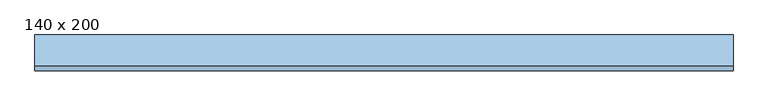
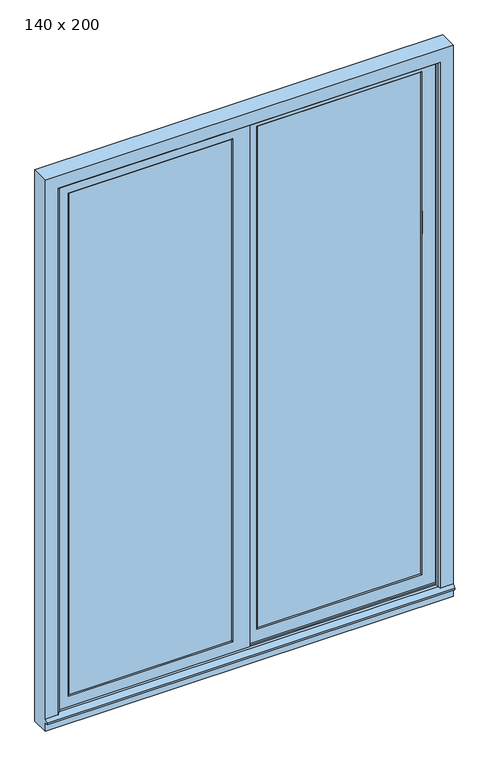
"""IFC4 building model written with IfcOpenShell, lengths in millimetres: window geometry, T-2 Vantaux coulissant : 140 x 200."""

from ifc_helpers import new_model, si_unit, point, frame, frame_2d, origin, place, context, project, spatial, polyline, circle_curve, ellipse_curve, trimmed, segment, composite_curve, outline, extrude, faceted_brep, source, transform, mapped, element, save
from ifc_brep_helpers import plane_surface, cylinder_surface, advanced_brep


def window_140_x_200_b4d7d047(model_context):
    return source(origin(), model_context, "Body", "SolidModel", [
        extrude(outline(composite_curve([segment(polyline([(-619.0038966, 79.0), (-630.9961034, 79.0), (-630.9961034, 80.0233746)]), True, "CONTINUOUS"), segment(trimmed(circle_curve(frame_2d((-630.4961034, 80.0233746)), 0.5), [point((-630.9961034, 80.0233746))], [point((-630.4961034, 80.5233746))], False, "CARTESIAN"), True, "CONTINUOUS"), segment(polyline([(-630.4961034, 80.5233746), (-619.5038966, 80.5233746)]), True, "CONTINUOUS"), segment(trimmed(circle_curve(frame_2d((-619.5038966, 80.0233746)), 0.5), [point((-619.5038966, 80.5233746))], [point((-619.0038966, 80.0233746))], False, "CARTESIAN"), True, "CONTINUOUS"), segment(polyline([(-619.0038966, 80.0233746), (-619.0038966, 79.0)]), True, "CONTINUOUS")], self_intersect=False)), frame((0.0, 0.0, 1311.5038966), z_axis=(0.0, 0.0, 1.0), x_axis=(1.0, 0.0, 0.0)), (0.0, 0.0, 1.0), 76.9922069),
        advanced_brep(
        [(-632.5, 74.0, 1390.0), (-617.5, 74.0, 1390.0), (-617.5, 84.0, 1390.0), (-632.5, 84.0, 1390.0), (-630.9961034, 84.4857579, 1388.4961034), (-619.0038966, 84.4857579, 1388.4961034), (-619.0038966, 74.0, 1388.4961034), (-630.9961034, 74.0, 1388.4961034), (-631.9961034, 85.4857579, 1389.4961034), (-618.0038966, 85.4857579, 1389.4961034), (-634.9999662, 84.0, 1392.4999662), (-615.0000338, 84.0, 1392.4999662), (-616.4999662, 85.4857579, 1391.0000338), (-633.5000338, 85.4857579, 1391.0000338), (-617.5, 74.0, 1310.0), (-617.5, 84.0, 1310.0), (-619.0038966, 84.4857579, 1311.5038966), (-619.0038966, 74.0, 1311.5038966), (-618.0038966, 85.4857579, 1310.5038966), (-615.0000338, 84.0, 1307.5000338), (-616.4999662, 85.4857579, 1308.9999662), (-632.5, 74.0, 1310.0), (-632.5, 84.0, 1310.0), (-630.9961034, 84.4857579, 1311.5038966), (-630.9961034, 74.0, 1311.5038966), (-631.9961034, 85.4857579, 1310.5038966), (-634.9999662, 84.0, 1307.5000338), (-633.5000338, 85.4857579, 1308.9999662)],
        [
            (0, 1),
            (1, 2),
            (2, 3),
            (3, 0),
            (4, 5),
            (5, 6),
            (6, 7),
            (7, 4),
            (8, 9),
            (9, 5, ellipse_curve(frame((-618.0038966, 84.4857579, 1389.4961034), z_axis=(-0.7071067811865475, 0.0, 0.7071067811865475), x_axis=(-0.7071067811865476, 0.0, -0.7071067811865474)), 1.4142136, 1.0)),
            (4, 8, ellipse_curve(frame((-631.9961034, 84.4857579, 1389.4961034), z_axis=(0.7071067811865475, 0.0, 0.7071067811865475), x_axis=(-0.7071067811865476, 0.0, 0.7071067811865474)), 1.4142136, 1.0)),
            (10, 11),
            (11, 12, ellipse_curve(frame((-616.4999662, 83.9857579, 1391.0000338), z_axis=(-0.7071067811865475, 0.0, 0.7071067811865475), x_axis=(-0.7071067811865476, 0.0, -0.7071067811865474)), 2.1213203, 1.5)),
            (12, 13),
            (13, 10, ellipse_curve(frame((-633.5000338, 83.9857579, 1391.0000338), z_axis=(0.7071067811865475, 0.0, 0.7071067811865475), x_axis=(-0.7071067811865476, 0.0, 0.7071067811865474)), 2.1213203, 1.5)),
            (1, 14),
            (14, 15),
            (15, 2),
            (5, 16),
            (16, 17),
            (17, 6),
            (9, 18),
            (18, 16, ellipse_curve(frame((-618.0038966, 84.4857579, 1310.5038966), z_axis=(0.7071067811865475, 0.0, 0.7071067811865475), x_axis=(-0.7071067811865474, 0.0, 0.7071067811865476)), 1.4142136, 1.0)),
            (11, 19),
            (19, 20, ellipse_curve(frame((-616.4999662, 83.9857579, 1308.9999662), z_axis=(0.7071067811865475, 0.0, 0.7071067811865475), x_axis=(-0.7071067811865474, 0.0, 0.7071067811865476)), 2.1213203, 1.5)),
            (20, 12),
            (14, 21),
            (21, 22),
            (22, 15),
            (16, 23),
            (23, 24),
            (24, 17),
            (18, 25),
            (25, 23, ellipse_curve(frame((-631.9961034, 84.4857579, 1310.5038966), z_axis=(0.7071067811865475, 0.0, -0.7071067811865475), x_axis=(0.7071067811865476, 0.0, 0.7071067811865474)), 1.4142136, 1.0)),
            (19, 26),
            (26, 27, ellipse_curve(frame((-633.5000338, 83.9857579, 1308.9999662), z_axis=(0.7071067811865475, 0.0, -0.7071067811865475), x_axis=(0.7071067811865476, 0.0, 0.7071067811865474)), 2.1213203, 1.5)),
            (27, 20),
            (10, 26),
            (22, 3),
            (21, 0),
            (24, 7),
            (23, 4),
            (25, 8),
            (27, 13),
        ],
        [
            plane_surface(frame((-632.5, 84.0, 1390.0), z_axis=(0.0, 0.0, 1.0), x_axis=(1.0, 0.0, 0.0))),
            plane_surface(frame((-630.9961034, 74.0, 1388.4961034), z_axis=(0.0, 0.0, -1.0), x_axis=(1.0, 0.0, 0.0))),
            cylinder_surface(frame((-632.5, 84.4857579, 1389.4961034), z_axis=(-1.0, 0.0, 0.0), x_axis=(0.0, 0.0, -1.0)), 1.0),
            cylinder_surface(frame((-632.5, 83.9857579, 1391.0000338), z_axis=(-1.0, 0.0, 0.0), x_axis=(0.0, 0.0, -1.0)), 1.5),
            plane_surface(frame((-617.5, 84.0, 1390.0), z_axis=(1.0, 0.0, 0.0), x_axis=(0.0, 0.0, -1.0))),
            plane_surface(frame((-619.0038966, 74.0, 1388.4961034), z_axis=(-1.0, 0.0, 0.0), x_axis=(0.0, 0.0, -1.0))),
            cylinder_surface(frame((-618.0038966, 84.4857579, 1390.0), z_axis=(0.0, 0.0, 1.0), x_axis=(-1.0, 0.0, 0.0)), 1.0),
            cylinder_surface(frame((-616.4999662, 83.9857579, 1390.0), z_axis=(0.0, 0.0, 1.0), x_axis=(-1.0, 0.0, 0.0)), 1.5),
            plane_surface(frame((-617.5, 84.0, 1310.0), z_axis=(0.0, 0.0, -1.0), x_axis=(-1.0, 0.0, 0.0))),
            plane_surface(frame((-619.0038966, 74.0, 1311.5038966), z_axis=(0.0, 0.0, 1.0), x_axis=(-1.0, 0.0, 0.0))),
            cylinder_surface(frame((-617.5, 84.4857579, 1310.5038966), z_axis=(1.0, 0.0, 0.0), x_axis=(0.0, 0.0, 1.0)), 1.0),
            cylinder_surface(frame((-617.5, 83.9857579, 1308.9999662), z_axis=(1.0, 0.0, 0.0), x_axis=(0.0, 0.0, 1.0)), 1.5),
            plane_surface(frame((-634.9999662, 84.0, 1307.5000338), z_axis=(0.0, -1.0, 0.0), x_axis=(0.0, 0.0, 1.0))),
            plane_surface(frame((-632.5, 84.0, 1310.0), z_axis=(-1.0, 0.0, 0.0), x_axis=(0.0, 0.0, 1.0))),
            plane_surface(frame((-632.5, 74.0, 1310.0), z_axis=(0.0, -1.0, 0.0), x_axis=(0.0, 0.0, 1.0))),
            plane_surface(frame((-630.9961034, 74.0, 1311.5038966), z_axis=(1.0, 0.0, 0.0), x_axis=(0.0, 0.0, 1.0))),
            cylinder_surface(frame((-631.9961034, 84.4857579, 1310.0), z_axis=(0.0, 0.0, -1.0), x_axis=(1.0, 0.0, 0.0)), 1.0),
            plane_surface(frame((-631.9961034, 85.4857579, 1310.5038966), z_axis=(0.0, 1.0, 0.0), x_axis=(0.0, 0.0, 1.0))),
            cylinder_surface(frame((-633.5000338, 83.9857579, 1310.0), z_axis=(0.0, 0.0, -1.0), x_axis=(1.0, 0.0, 0.0)), 1.5),
        ],
        [
            (0, [[1, 2, 3, 4]]),
            (1, [[5, 6, 7, 8]]),
            (2, [[9, 10, -5, 11]]),
            (3, [[12, 13, 14, 15]]),
            (4, [[16, 17, 18, -2]]),
            (5, [[19, 20, 21, -6]]),
            (6, [[22, 23, -19, -10]]),
            (7, [[24, 25, 26, -13]]),
            (8, [[27, 28, 29, -17]]),
            (9, [[30, 31, 32, -20]]),
            (10, [[33, 34, -30, -23]]),
            (11, [[35, 36, 37, -25]]),
            (12, [[-12, 38, -35, -24], [-3, -18, -29, 39]]),
            (13, [[40, -4, -39, -28]]),
            (14, [[-1, -40, -27, -16], [-7, -21, -32, 41]]),
            (15, [[42, -8, -41, -31]]),
            (16, [[43, -11, -42, -34]]),
            (17, [[-14, -26, -37, 44], [-9, -43, -33, -22]]),
            (18, [[-38, -15, -44, -36]]),
        ],
    ),
        extrude(outline(composite_curve([segment(polyline([(629.0038966, 100.0), (629.0038966, 101.0233746)]), True, "CONTINUOUS"), segment(trimmed(circle_curve(frame_2d((629.5038966, 101.0233746)), 0.5), [point((629.0038966, 101.0233746))], [point((629.5038966, 101.5233746))], False, "CARTESIAN"), True, "CONTINUOUS"), segment(polyline([(629.5038966, 101.5233746), (640.4961034, 101.5233746)]), True, "CONTINUOUS"), segment(trimmed(circle_curve(frame_2d((640.4961034, 101.0233746)), 0.5), [point((640.4961034, 101.5233746))], [point((640.9961034, 101.0233746))], False, "CARTESIAN"), True, "CONTINUOUS"), segment(polyline([(640.9961034, 101.0233746), (640.9961034, 100.0), (629.0038966, 100.0)]), True, "CONTINUOUS")], self_intersect=False)), frame((0.0, 0.0, 1311.5038966), z_axis=(0.0, 0.0, 1.0), x_axis=(1.0, 0.0, 0.0)), (0.0, 0.0, 1.0), 76.9922069),
        advanced_brep(
        [(642.5, 95.0, 1310.0), (627.5, 95.0, 1310.0), (627.5, 105.0, 1310.0), (642.5, 105.0, 1310.0), (640.9961034, 105.4857579, 1311.5038966), (629.0038966, 105.4857579, 1311.5038966), (629.0038966, 95.0, 1311.5038966), (640.9961034, 95.0, 1311.5038966), (641.9961034, 106.4857579, 1310.5038966), (628.0038966, 106.4857579, 1310.5038966), (644.9999662, 105.0, 1307.5000338), (625.0000338, 105.0, 1307.5000338), (626.4999662, 106.4857579, 1308.9999662), (643.5000338, 106.4857579, 1308.9999662), (627.5, 95.0, 1390.0), (627.5, 105.0, 1390.0), (629.0038966, 105.4857579, 1388.4961034), (629.0038966, 95.0, 1388.4961034), (628.0038966, 106.4857579, 1389.4961034), (625.0000338, 105.0, 1392.4999662), (626.4999662, 106.4857579, 1391.0000338), (642.5, 95.0, 1390.0), (642.5, 105.0, 1390.0), (640.9961034, 105.4857579, 1388.4961034), (640.9961034, 95.0, 1388.4961034), (641.9961034, 106.4857579, 1389.4961034), (644.9999662, 105.0, 1392.4999662), (643.5000338, 106.4857579, 1391.0000338)],
        [
            (0, 1),
            (1, 2),
            (2, 3),
            (3, 0),
            (4, 5),
            (5, 6),
            (6, 7),
            (7, 4),
            (8, 9),
            (9, 5, ellipse_curve(frame((628.0038966, 105.4857579, 1310.5038966), z_axis=(0.7071067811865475, 0.0, -0.7071067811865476), x_axis=(0.7071067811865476, 0.0, 0.7071067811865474)), 1.4142136, 1.0)),
            (4, 8, ellipse_curve(frame((641.9961034, 105.4857579, 1310.5038966), z_axis=(-0.7071067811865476, 0.0, -0.7071067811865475), x_axis=(0.7071067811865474, 0.0, -0.7071067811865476)), 1.4142136, 1.0)),
            (10, 11),
            (11, 12, ellipse_curve(frame((626.4999662, 104.9857579, 1308.9999662), z_axis=(0.7071067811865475, 0.0, -0.7071067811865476), x_axis=(0.7071067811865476, 0.0, 0.7071067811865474)), 2.1213203, 1.5)),
            (12, 13),
            (13, 10, ellipse_curve(frame((643.5000338, 104.9857579, 1308.9999662), z_axis=(-0.7071067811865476, 0.0, -0.7071067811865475), x_axis=(0.7071067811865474, 0.0, -0.7071067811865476)), 2.1213203, 1.5)),
            (1, 14),
            (14, 15),
            (15, 2),
            (5, 16),
            (16, 17),
            (17, 6),
            (9, 18),
            (18, 16, ellipse_curve(frame((628.0038966, 105.4857579, 1389.4961034), z_axis=(-0.7071067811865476, 0.0, -0.7071067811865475), x_axis=(0.7071067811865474, 0.0, -0.7071067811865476)), 1.4142136, 1.0)),
            (11, 19),
            (19, 20, ellipse_curve(frame((626.4999662, 104.9857579, 1391.0000338), z_axis=(-0.7071067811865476, 0.0, -0.7071067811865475), x_axis=(0.7071067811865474, 0.0, -0.7071067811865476)), 2.1213203, 1.5)),
            (20, 12),
            (14, 21),
            (21, 22),
            (22, 15),
            (16, 23),
            (23, 24),
            (24, 17),
            (18, 25),
            (25, 23, ellipse_curve(frame((641.9961034, 105.4857579, 1389.4961034), z_axis=(-0.7071067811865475, 0.0, 0.7071067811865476), x_axis=(-0.7071067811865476, 0.0, -0.7071067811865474)), 1.4142136, 1.0)),
            (19, 26),
            (26, 27, ellipse_curve(frame((643.5000338, 104.9857579, 1391.0000338), z_axis=(-0.7071067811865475, 0.0, 0.7071067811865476), x_axis=(-0.7071067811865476, 0.0, -0.7071067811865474)), 2.1213203, 1.5)),
            (27, 20),
            (10, 26),
            (22, 3),
            (21, 0),
            (24, 7),
            (23, 4),
            (25, 8),
            (27, 13),
        ],
        [
            plane_surface(frame((642.5, 105.0, 1310.0), z_axis=(0.0, 0.0, -1.0), x_axis=(-1.0, 0.0, 0.0))),
            plane_surface(frame((640.9961034, 95.0, 1311.5038966), z_axis=(0.0, 0.0, 1.0), x_axis=(-1.0, 0.0, 0.0))),
            cylinder_surface(frame((642.5, 105.4857579, 1310.5038966), z_axis=(1.0, 0.0, 0.0), x_axis=(0.0, 0.0, 1.0)), 1.0),
            cylinder_surface(frame((642.5, 104.9857579, 1308.9999662), z_axis=(1.0, 0.0, 0.0), x_axis=(0.0, 0.0, 1.0)), 1.5),
            plane_surface(frame((627.5, 105.0, 1310.0), z_axis=(-1.0, 0.0, 0.0), x_axis=(0.0, 0.0, 1.0))),
            plane_surface(frame((629.0038966, 95.0, 1311.5038966), z_axis=(1.0, 0.0, 0.0), x_axis=(0.0, 0.0, 1.0))),
            cylinder_surface(frame((628.0038966, 105.4857579, 1310.0), z_axis=(0.0, 0.0, -1.0), x_axis=(1.0, 0.0, 0.0)), 1.0),
            cylinder_surface(frame((626.4999662, 104.9857579, 1310.0), z_axis=(0.0, 0.0, -1.0), x_axis=(1.0, 0.0, 0.0)), 1.5),
            plane_surface(frame((627.5, 105.0, 1390.0), z_axis=(0.0, 0.0, 1.0), x_axis=(1.0, 0.0, 0.0))),
            plane_surface(frame((629.0038966, 95.0, 1388.4961034), z_axis=(0.0, 0.0, -1.0), x_axis=(1.0, 0.0, 0.0))),
            cylinder_surface(frame((627.5, 105.4857579, 1389.4961034), z_axis=(-1.0, 0.0, 0.0), x_axis=(0.0, 0.0, -1.0)), 1.0),
            cylinder_surface(frame((627.5, 104.9857579, 1391.0000338), z_axis=(-1.0, 0.0, 0.0), x_axis=(0.0, 0.0, -1.0)), 1.5),
            plane_surface(frame((644.9999662, 105.0, 1392.4999662), z_axis=(0.0, -1.0, 0.0), x_axis=(0.0, 0.0, -1.0))),
            plane_surface(frame((642.5, 105.0, 1390.0), z_axis=(1.0, 0.0, 0.0), x_axis=(0.0, 0.0, -1.0))),
            plane_surface(frame((642.5, 95.0, 1390.0), z_axis=(0.0, -1.0, 0.0), x_axis=(0.0, 0.0, -1.0))),
            plane_surface(frame((640.9961034, 95.0, 1388.4961034), z_axis=(-1.0, 0.0, 0.0), x_axis=(0.0, 0.0, -1.0))),
            cylinder_surface(frame((641.9961034, 105.4857579, 1390.0), z_axis=(0.0, 0.0, 1.0), x_axis=(-1.0, 0.0, 0.0)), 1.0),
            plane_surface(frame((641.9961034, 106.4857579, 1389.4961034), z_axis=(0.0, 1.0, 0.0), x_axis=(0.0, 0.0, -1.0))),
            cylinder_surface(frame((643.5000338, 104.9857579, 1390.0), z_axis=(0.0, 0.0, 1.0), x_axis=(-1.0, 0.0, 0.0)), 1.5),
        ],
        [
            (0, [[1, 2, 3, 4]]),
            (1, [[5, 6, 7, 8]]),
            (2, [[9, 10, -5, 11]]),
            (3, [[12, 13, 14, 15]]),
            (4, [[16, 17, 18, -2]]),
            (5, [[19, 20, 21, -6]]),
            (6, [[22, 23, -19, -10]]),
            (7, [[24, 25, 26, -13]]),
            (8, [[27, 28, 29, -17]]),
            (9, [[30, 31, 32, -20]]),
            (10, [[33, 34, -30, -23]]),
            (11, [[35, 36, 37, -25]]),
            (12, [[-12, 38, -35, -24], [-3, -18, -29, 39]]),
            (13, [[40, -4, -39, -28]]),
            (14, [[-1, -40, -27, -16], [-7, -21, -32, 41]]),
            (15, [[42, -8, -41, -31]]),
            (16, [[43, -11, -42, -34]]),
            (17, [[-14, -26, -37, 44], [-9, -43, -33, -22]]),
            (18, [[-38, -15, -44, -36]]),
        ],
    ),
        faceted_brep([(47.1715729, 86.0, 87.1715729), (612.8284271, 86.0, 87.1715729), (610.0, 88.8284271, 90.0), (50.0, 88.8284271, 90.0), (50.0, 88.8284271, 1910.0), (47.1715729, 86.0, 1912.8284271), (-10.0, 86.0, 1960.0), (-10.0, 86.0, 40.0), (660.0, 86.0, 40.0), (660.0, 86.0, 1960.0), (612.8284271, 86.0, 1912.8284271), (50.0, 102.1715729, 90.0), (50.0, 102.1715729, 1910.0), (47.1715729, 105.0, 87.1715729), (47.1715729, 105.0, 1912.8284271), (610.0, 102.1715729, 90.0), (610.0, 88.8284271, 1910.0), (610.0, 102.1715729, 1910.0), (612.8284271, 105.0, 1912.8284271), (612.8284271, 105.0, 87.1715729), (660.0, 93.0, 40.0), (660.0, 93.0, 50.0), (660.0, 98.0, 50.0), (660.0, 98.0, 40.0), (660.0, 105.0, 40.0), (660.0, 105.0, 1960.0), (-10.0, 105.0, 40.0), (-10.0, 105.0, 1960.0), (642.5, 105.0, 1310.0), (642.5, 105.0, 1390.0), (627.5, 105.0, 1390.0), (627.5, 105.0, 1310.0), (-10.0, 93.0, 40.0), (-10.0, 98.0, 40.0), (-10.0, 98.0, 50.0), (-10.0, 93.0, 50.0), (627.5, 95.0, 1310.0), (642.5, 95.0, 1310.0), (627.5, 95.0, 1390.0), (642.5, 95.0, 1390.0)], [[[0, 1, 2, 3]], [[3, 4, 5, 0]], [[6, 7, 8, 9], [5, 10, 1, 0]], [[3, 11, 12, 4]], [[11, 13, 14, 12]], [[3, 2, 15, 11]], [[16, 2, 1, 10]], [[17, 15, 2, 16]], [[17, 18, 19, 15]], [[9, 8, 20, 21, 22, 23, 24, 25]], [[25, 24, 26, 27], [13, 19, 18, 14], [28, 29, 30, 31]], [[8, 7, 32, 20]], [[24, 23, 33, 26]], [[34, 33, 23, 22]], [[34, 22, 21, 35]], [[21, 20, 32, 35]], [[15, 19, 13, 11]], [[27, 26, 33, 34, 35, 32, 7, 6]], [[31, 36, 37, 28]], [[30, 38, 36, 31]], [[29, 39, 38, 30]], [[28, 37, 39, 29]], [[36, 38, 39, 37]], [[4, 16, 10, 5]], [[12, 17, 16, 4]], [[25, 27, 6, 9]], [[12, 14, 18, 17]]]),
        faceted_brep([(-50.0, 67.8284271, 90.0), (-610.0, 67.8284271, 90.0), (-612.8284271, 65.0, 87.1715729), (-47.1715729, 65.0, 87.1715729), (-47.1715729, 65.0, 1912.8284271), (-50.0, 67.8284271, 1910.0), (-50.0, 81.1715729, 1910.0), (-50.0, 81.1715729, 90.0), (-660.0, 65.0, 40.0), (10.0, 65.0, 40.0), (10.0, 65.0, 1960.0), (-660.0, 65.0, 1960.0), (-612.8284271, 65.0, 1912.8284271), (-610.0, 67.8284271, 1910.0), (-610.0, 81.1715729, 90.0), (-610.0, 81.1715729, 1910.0), (-660.0, 84.0, 1960.0), (-660.0, 84.0, 40.0), (-660.0, 77.0, 40.0), (-660.0, 77.0, 50.0), (-660.0, 72.0, 50.0), (-660.0, 72.0, 40.0), (10.0, 84.0, 40.0), (10.0, 84.0, 1960.0), (10.0, 72.0, 40.0), (10.0, 72.0, 50.0), (10.0, 77.0, 50.0), (10.0, 77.0, 40.0), (-632.5, 84.0, 1390.0), (-632.5, 84.0, 1310.0), (-617.5, 84.0, 1310.0), (-617.5, 84.0, 1390.0), (-47.1715729, 84.0, 1912.8284271), (-612.8284271, 84.0, 1912.8284271), (-612.8284271, 84.0, 87.1715729), (-47.1715729, 84.0, 87.1715729), (-617.5, 74.0, 1390.0), (-632.5, 74.0, 1390.0), (-617.5, 74.0, 1310.0), (-632.5, 74.0, 1310.0)], [[[0, 1, 2, 3]], [[3, 4, 5, 0]], [[5, 6, 7, 0]], [[8, 9, 10, 11], [3, 2, 12, 4]], [[12, 2, 1, 13]], [[1, 14, 15, 13]], [[11, 16, 17, 18, 19, 20, 21, 8]], [[22, 23, 10, 9, 24, 25, 26, 27]], [[8, 21, 24, 9]], [[22, 27, 18, 17]], [[16, 23, 22, 17], [28, 29, 30, 31], [32, 33, 34, 35]], [[35, 7, 6, 32]], [[34, 14, 7, 35]], [[33, 15, 14, 34]], [[31, 36, 37, 28]], [[30, 38, 36, 31]], [[29, 39, 38, 30]], [[28, 37, 39, 29]], [[0, 7, 14, 1]], [[25, 24, 21, 20]], [[25, 20, 19, 26]], [[19, 18, 27, 26]], [[36, 38, 39, 37]], [[4, 12, 13, 5]], [[13, 15, 6, 5]], [[10, 23, 16, 11]], [[32, 6, 15, 33]]]),
        extrude(outline(polyline([(50.0, 102.1715729), (610.0, 102.1715729), (610.0, 88.8284271), (50.0, 88.8284271), (50.0, 102.1715729)])), frame((0.0, 0.0, 90.0), z_axis=(0.0, 0.0, 1.0), x_axis=(1.0, 0.0, 0.0)), (0.0, 0.0, 1.0), 1820.0),
        extrude(outline(polyline([(-610.0, 81.1715729), (-50.0, 81.1715729), (-50.0, 67.8284271), (-610.0, 67.8284271), (-610.0, 81.1715729)])), frame((0.0, 0.0, 90.0), z_axis=(0.0, 0.0, 1.0), x_axis=(1.0, 0.0, 0.0)), (0.0, 0.0, 1.0), 1820.0),
        faceted_brep([(700.0, 50.0, 0.0), (700.0, 112.0, 0.0), (700.0, 112.0, 2000.0), (700.0, 50.0, 2000.0), (700.0, 50.0, 45.0), (700.0, 40.0, 35.0), (700.0, 40.0, 30.0), (700.0, 50.0, 30.0), (-700.0, 50.0, 30.0), (-700.0, 50.0, 0.0), (-700.0, 40.0, 30.0), (-700.0, 40.0, 35.0), (655.0, 50.0, 45.0), (650.0, 55.0, 50.0), (-650.0, 55.0, 50.0), (-655.0, 50.0, 45.0), (-700.0, 50.0, 45.0), (-700.0, 50.0, 2000.0), (-655.0, 50.0, 1955.0), (655.0, 50.0, 1955.0), (-700.0, 112.0, 0.0), (-700.0, 112.0, 2000.0), (-652.0, 112.0, 1952.0), (-652.0, 112.0, 48.0), (652.0, 112.0, 48.0), (652.0, 112.0, 1952.0), (650.0, 110.0, 50.0), (650.0, 110.0, 1950.0), (-650.0, 110.0, 50.0), (-650.0, 110.0, 1950.0), (660.0, 65.0, 1960.0), (660.0, 65.0, 40.0), (-660.0, 65.0, 40.0), (-660.0, 65.0, 1960.0), (-650.0, 65.0, 1950.0), (-650.0, 65.0, 50.0), (650.0, 65.0, 50.0), (650.0, 65.0, 1950.0), (660.0, 93.0, 40.0), (660.0, 98.0, 40.0), (660.0, 105.0, 40.0), (-660.0, 105.0, 40.0), (-660.0, 77.0, 40.0), (-660.0, 72.0, 40.0), (-660.0, 105.0, 1960.0), (660.0, 105.0, 1960.0), (650.0, 105.0, 1950.0), (650.0, 105.0, 50.0), (-650.0, 105.0, 50.0), (-650.0, 105.0, 1950.0), (650.0, 55.0, 1950.0), (-650.0, 55.0, 1950.0)], [[[0, 1, 2, 3, 4, 5, 6, 7]], [[7, 8, 9, 0]], [[6, 10, 8, 7]], [[5, 11, 10, 6]], [[5, 4, 12, 13, 14, 15, 16, 11]], [[17, 16, 15, 18, 19, 12, 4, 3]], [[20, 21, 2, 1], [22, 23, 24, 25]], [[0, 9, 20, 1]], [[9, 8, 10, 11, 16, 17, 21, 20]], [[25, 24, 26, 27]], [[23, 28, 26, 24]], [[29, 28, 23, 22]], [[30, 31, 32, 33], [34, 35, 36, 37]], [[31, 38, 39, 40, 41, 42, 43, 32]], [[33, 32, 43, 42, 41, 44]], [[44, 41, 40, 45], [46, 47, 48, 49]], [[45, 40, 39, 38, 31, 30]], [[37, 36, 13, 50]], [[35, 14, 13, 36]], [[51, 14, 35, 34]], [[50, 13, 12, 19]], [[18, 15, 14, 51]], [[49, 48, 28, 29]], [[28, 48, 47, 26]], [[27, 26, 47, 46]], [[33, 44, 45, 30]], [[3, 2, 21, 17]], [[37, 50, 51, 34]], [[18, 51, 50, 19]], [[49, 29, 27, 46]], [[25, 27, 29, 22]]]),
        extrude(outline(polyline([(-660.0, 77.0), (660.0, 77.0), (660.0, 72.0), (-660.0, 72.0), (-660.0, 77.0)])), frame((0.0, 0.0, 40.0), z_axis=(0.0, 0.0, 1.0), x_axis=(1.0, 0.0, 0.0)), (0.0, 0.0, 1.0), 10.0),
        extrude(outline(polyline([(-660.0, 98.0), (660.0, 98.0), (660.0, 93.0), (-660.0, 93.0), (-660.0, 98.0)])), frame((0.0, 0.0, 40.0), z_axis=(0.0, 0.0, 1.0), x_axis=(1.0, 0.0, 0.0)), (0.0, 0.0, 1.0), 10.0),
    ])


if __name__ == "__main__":
    model = new_model("IFC4")
    model_context = context("Model", 3, world=origin())
    ifc_project = project(units=[si_unit("LENGTHUNIT", "METRE", prefix="MILLI")], contexts=[model_context])
    site = spatial("IfcSite", under=ifc_project)
    building = spatial("IfcBuilding", under=site)
    placement = place(None, origin())
    window_140_x_200_shape = window_140_x_200_b4d7d047(model_context)
    element("IfcWindow", 1, ObjectType="T-2 Vantaux coulissant : 140 x 200", at=placement, inside=building, context=model_context, shape_type="MappedRepresentation", body=[
        mapped(window_140_x_200_shape, transform((0.0, 0.0, 0.0), x_axis=(1.0, 0.0, 0.0), y_axis=(0.0, 1.0, 0.0), z_axis=(0.0, 0.0, 1.0))),
    ])
    save(model, "model.ifc")
